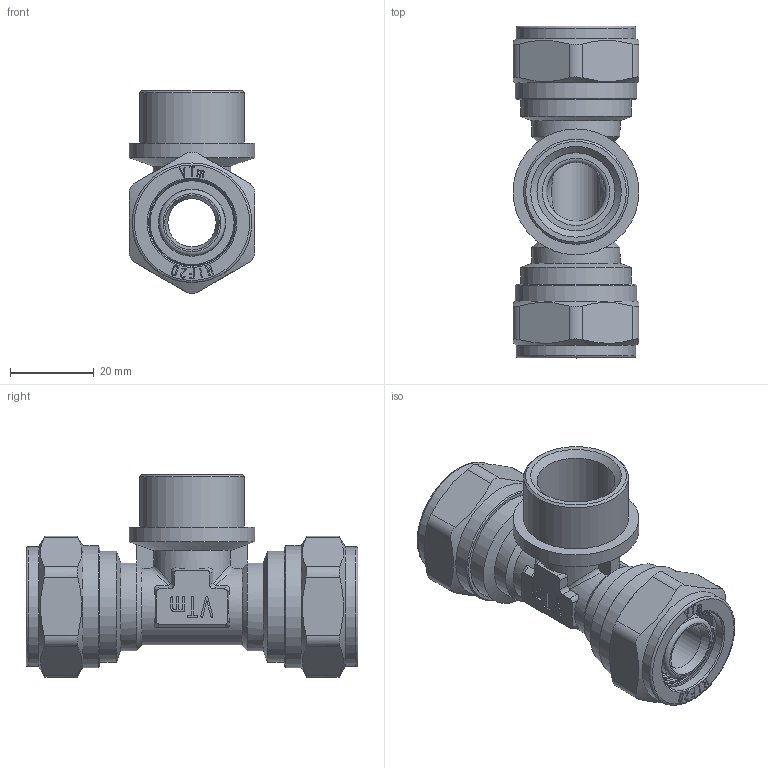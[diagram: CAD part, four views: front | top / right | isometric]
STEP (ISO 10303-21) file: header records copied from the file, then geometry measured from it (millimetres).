
FILE_DESCRIPTION(('STEP AP203'), '1');
FILE_NAME('VTm.332.N.200420', '', ('UNSPECIFIED'), ('UNSPECIFIED'), 'C3D Converter', 'C3D Toolkit', '');
FILE_SCHEMA(('CONFIG_CONTROL_DESIGN'));
Length unit declared in the file: millimetre
Products named in the file (1): ВР.302635.071.000 СБ
Bounding box: 30 x 79.06 x 48.35 mm (x, y, z)
Volume: 32027.9 mm3; surface area: 22312.7 mm2
Topology: 1 solids, 1 shells, 747 faces, 2052 edges, 1355 vertices
Faces by surface type: extrusion 312, plane 265, cylinder 82, torus 55, cone 27, bspline 4, sphere 2
Full cylindrical faces by diameter (mm): 11.5 x1, 14 x1, 15.8 x8, 15.9 x2, 18.632 x1, 20.1 x2, 20.2 x2, 20.7 x2, 21 x2, 24.118 x2, 25 x1, 26.441 x2, 28.5 x2, 29 x2, 30 x1
Entity records: 27647 total; most frequent: CARTESIAN_POINT 10501, ORIENTED_EDGE 3946, DIRECTION 2496, EDGE_CURVE 1973, VERTEX_POINT 1355, VECTOR 1214, B_SPLINE_CURVE_WITH_KNOTS 1112, LINE 902
